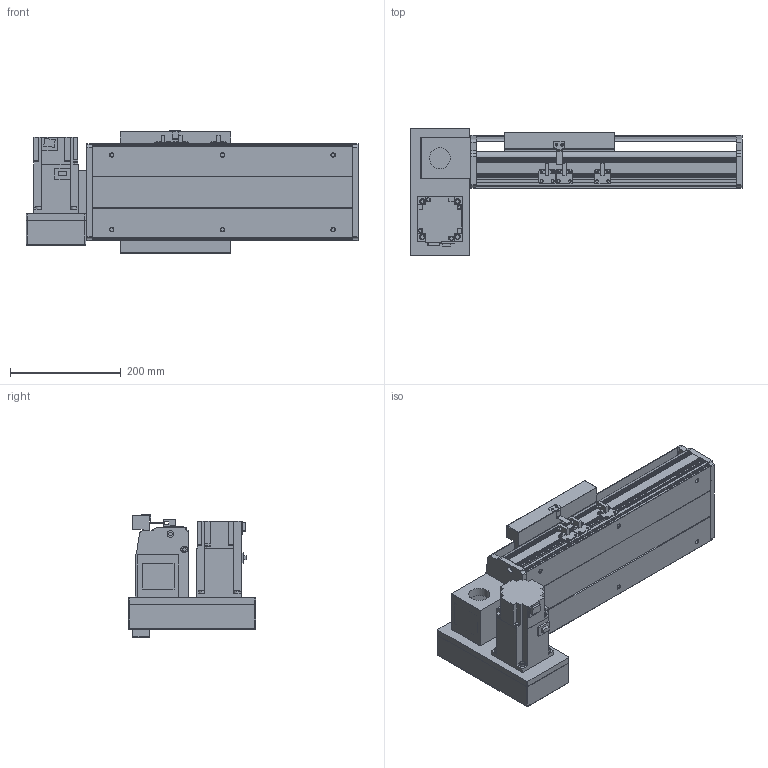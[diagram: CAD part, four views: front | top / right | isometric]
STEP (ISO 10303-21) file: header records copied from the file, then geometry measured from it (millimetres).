
FILE_DESCRIPTION(/* description */ ('STEP AP214'),/* implementation_level */ '2;1');
FILE_NAME(/* name */ 'PBS200-P40-S100-LD-T75-C1-N(0)',/* time_stamp */ '2022-06-11T08:42:49+02:00',/* author */ ('License CC BY-ND 4.0'),/* organization */ ('CADENAS'),/* preprocessor_version */ 'ST-DEVELOPER v18.102',/* originating_system */ 'PARTsolutions',/* authorisation */ ' ');
FILE_SCHEMA (('AUTOMOTIVE_DESIGN {1 0 10303 214 3 1 1}'));
Length unit declared in the file: millimetre
Products named in the file (7): PBS200-P40-S100-LD-T75-C1-N(0); PBS200_sensor; PBS200_plant; PBS200_sliser; T75-p1; PBS200T-LD_motors; PBS200-S100()_body
Assembly tree (8 placements, depth 2):
  PBS200-P40-S100-LD-T75-C1-N(0)
    PBS200_sensor  x3
    PBS200_plant
    PBS200_sliser
    T75-p1
    PBS200T-LD_motors
    PBS200-S100()_body
Bounding box: 600 x 230 x 221 mm (x, y, z)
Volume: 5617678 mm3; surface area: 933250.8 mm2
Topology: 8 solids, 8 shells, 890 faces, 2324 edges, 1518 vertices
Faces by surface type: plane 564, cylinder 288, cone 38
Full cylindrical faces by diameter (mm): 2.459 x6, 3.242 x4, 4.5 x6, 4.917 x4, 5 x6, 6 x7, 6.6 x8, 6.647 x10, 8 x6, 10 x4, 12 x8, 38 x2, 40 x1, 70 x1
Entity records: 23981 total; most frequent: DIRECTION 4207, CARTESIAN_POINT 4102, ORIENTED_EDGE 3922, EDGE_CURVE 1961, AXIS2_PLACEMENT_3D 1447, VERTEX_POINT 1342, LINE 1313, VECTOR 1313
